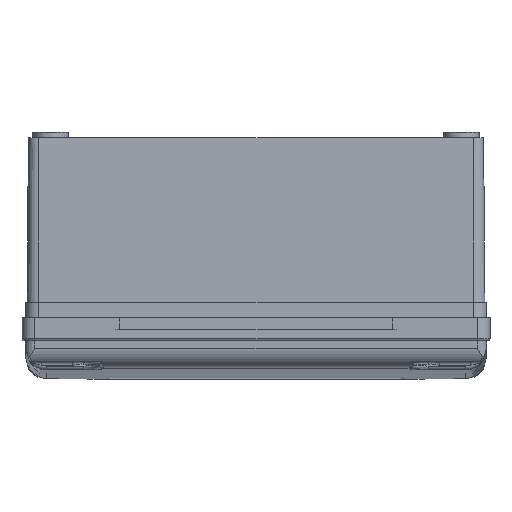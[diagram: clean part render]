
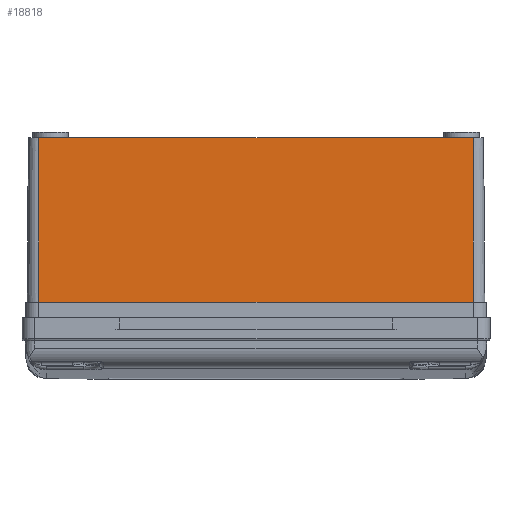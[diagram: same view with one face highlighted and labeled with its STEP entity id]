
A CAD part, front view. The second image highlights one B-rep face of the part: STEP entity #18818.
In plain terms, the highlighted planar face has unit normal (0, -1, 0.009).
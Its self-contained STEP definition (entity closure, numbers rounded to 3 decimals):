
#2860=ORIENTED_EDGE('',*,*,#7947,.F.);
#2861=ORIENTED_EDGE('',*,*,#7958,.T.);
#2862=ORIENTED_EDGE('',*,*,#7781,.T.);
#2863=ORIENTED_EDGE('',*,*,#7957,.F.);
#7781=EDGE_CURVE('',#10285,#10284,#12167,.F.);
#7947=EDGE_CURVE('',#10402,#10403,#12294,.T.);
#7957=EDGE_CURVE('',#10403,#10284,#12303,.F.);
#7958=EDGE_CURVE('',#10402,#10285,#12304,.F.);
#10284=VERTEX_POINT('',#29082);
#10285=VERTEX_POINT('',#29084);
#10402=VERTEX_POINT('',#29410);
#10403=VERTEX_POINT('',#29412);
#12167=LINE('',#29083,#14176);
#12294=LINE('',#29411,#14303);
#12303=LINE('',#29431,#14312);
#12304=LINE('',#29433,#14313);
#14176=VECTOR('',#23255,1000.);
#14303=VECTOR('',#23548,1000.);
#14312=VECTOR('',#23577,1000.);
#14313=VECTOR('',#23580,1000.);
#15545=EDGE_LOOP('',(#2860,#2861,#2862,#2863));
#16799=FACE_BOUND('',#15545,.T.);
#17998=PLANE('',#20152);
#18818=ADVANCED_FACE('',(#16799),#17998,.T.);
#20152=AXIS2_PLACEMENT_3D('',#29432,#23578,#23579);
#23255=DIRECTION('',(1.,0.,0.));
#23548=DIRECTION('',(-1.,0.,0.));
#23577=DIRECTION('',(0.,-0.009,-1.));
#23578=DIRECTION('',(0.,-1.,0.009));
#23579=DIRECTION('',(0.,-0.009,-1.));
#23580=DIRECTION('',(0.,-0.009,-1.));
#29082=CARTESIAN_POINT('',(-84.5,-130.5,0.));
#29083=CARTESIAN_POINT('',(0.,-130.5,0.));
#29084=CARTESIAN_POINT('',(84.5,-130.5,0.));
#29410=CARTESIAN_POINT('',(84.5,-131.059,-64.));
#29411=CARTESIAN_POINT('',(84.5,-131.059,-64.));
#29412=CARTESIAN_POINT('',(-84.5,-131.059,-64.));
#29431=CARTESIAN_POINT('',(-84.5,-130.5,0.));
#29432=CARTESIAN_POINT('',(0.,-130.5,0.));
#29433=CARTESIAN_POINT('',(84.5,-130.5,0.));
